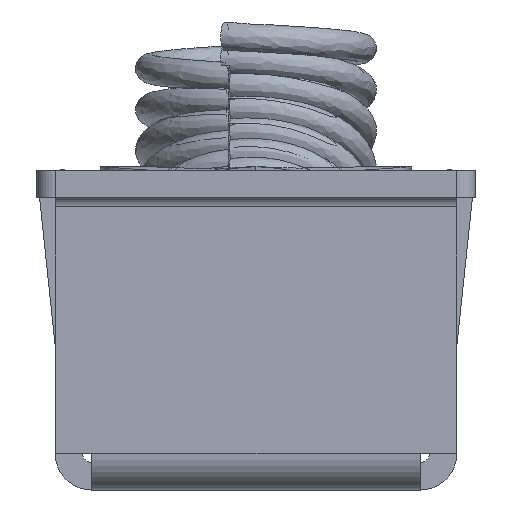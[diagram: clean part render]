
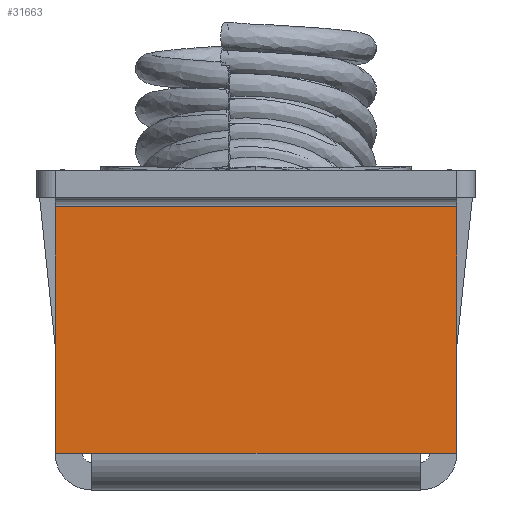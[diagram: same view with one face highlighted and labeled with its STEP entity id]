
A CAD part, left-side view. The second image highlights one B-rep face of the part: STEP entity #31663.
In plain terms, the highlighted planar face has unit normal (-1, 0, 0).
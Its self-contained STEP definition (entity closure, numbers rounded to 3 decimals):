
#30276=CARTESIAN_POINT('',(-169.,-11.,15.5));
#30277=VERTEX_POINT('',#30276);
#30285=CARTESIAN_POINT('',(-169.,-11.,2.));
#30286=VERTEX_POINT('',#30285);
#30287=CARTESIAN_POINT('',(-169.,-11.,15.5));
#30288=DIRECTION('',(0.0,0.0,-1.0));
#30289=VECTOR('',#30288,13.5);
#30290=LINE('',#30287,#30289);
#30291=EDGE_CURVE('',#30277,#30286,#30290,.T.);
#31059=CARTESIAN_POINT('',(-169.,11.,2.));
#31060=VERTEX_POINT('',#31059);
#31075=CARTESIAN_POINT('',(-169.0,9.,2.));
#31076=VERTEX_POINT('',#31075);
#31083=CARTESIAN_POINT('',(-169.,11.,2.));
#31084=DIRECTION('',(0.0,-1.0,0.0));
#31085=VECTOR('',#31084,2.);
#31086=LINE('',#31083,#31085);
#31087=EDGE_CURVE('',#31060,#31076,#31086,.T.);
#31128=CARTESIAN_POINT('',(-169.0,-9.,2.));
#31129=VERTEX_POINT('',#31128);
#31137=CARTESIAN_POINT('',(-169.,9.,2.));
#31138=DIRECTION('',(0.0,-1.0,0.0));
#31139=VECTOR('',#31138,18.);
#31140=LINE('',#31137,#31139);
#31141=EDGE_CURVE('',#31076,#31129,#31140,.T.);
#31315=CARTESIAN_POINT('',(-169.,-9.,2.));
#31316=DIRECTION('',(0.0,-1.0,0.0));
#31317=VECTOR('',#31316,2.);
#31318=LINE('',#31315,#31317);
#31319=EDGE_CURVE('',#31129,#30286,#31318,.T.);
#31400=CARTESIAN_POINT('',(-169.,11.,15.5));
#31401=VERTEX_POINT('',#31400);
#31402=CARTESIAN_POINT('',(-169.,11.,2.));
#31403=DIRECTION('',(0.0,0.0,1.0));
#31404=VECTOR('',#31403,13.5);
#31405=LINE('',#31402,#31404);
#31406=EDGE_CURVE('',#31060,#31401,#31405,.T.);
#31598=CARTESIAN_POINT('',(-169.,-11.,15.5));
#31599=DIRECTION('',(0.0,1.0,0.0));
#31600=VECTOR('',#31599,22.);
#31601=LINE('',#31598,#31600);
#31602=EDGE_CURVE('',#30277,#31401,#31601,.T.);
#31650=CARTESIAN_POINT('',(-169.,0.,8.839));
#31651=DIRECTION('',(1.0,0.0,0.0));
#31652=DIRECTION('',(0.0,0.0,-1.0));
#31653=AXIS2_PLACEMENT_3D('',#31650,#31651,#31652);
#31654=PLANE('',#31653);
#31655=ORIENTED_EDGE('',*,*,#31602,.T.);
#31656=ORIENTED_EDGE('',*,*,#31406,.F.);
#31657=ORIENTED_EDGE('',*,*,#31087,.T.);
#31658=ORIENTED_EDGE('',*,*,#31141,.T.);
#31659=ORIENTED_EDGE('',*,*,#31319,.T.);
#31660=ORIENTED_EDGE('',*,*,#30291,.F.);
#31661=EDGE_LOOP('',(#31655,#31656,#31657,#31658,#31659,#31660));
#31662=FACE_OUTER_BOUND('',#31661,.T.);
#31663=ADVANCED_FACE('',(#31662),#31654,.F.);
